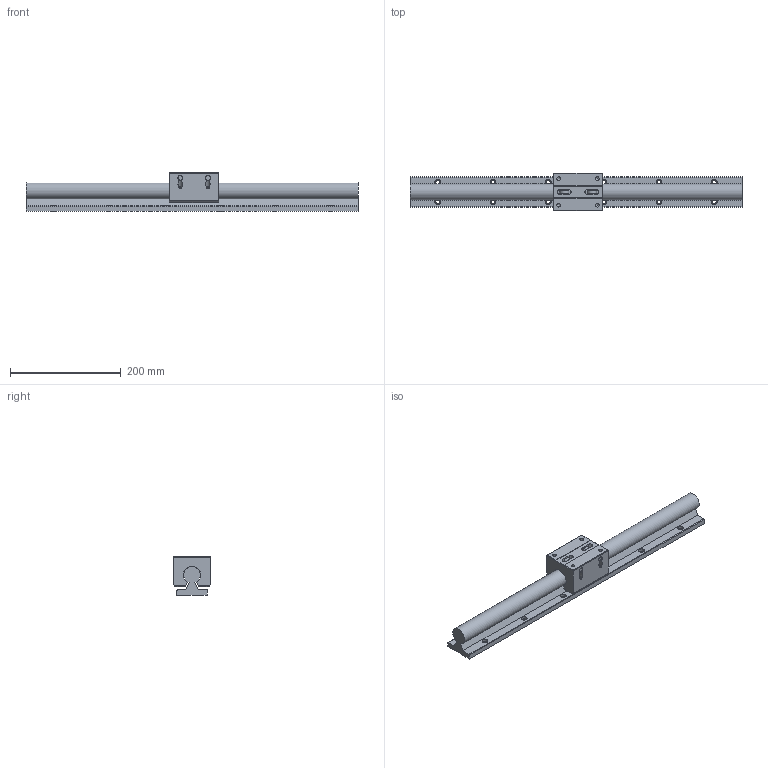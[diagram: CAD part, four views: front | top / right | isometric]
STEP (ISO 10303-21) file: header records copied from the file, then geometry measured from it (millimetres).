
FILE_DESCRIPTION((''),'2;1');
FILE_NAME('D:\製品 (図面)\カタログ用3D\リニアガイド関連\STEP形式\SLGB\SLGB30.stp','2010-06-02T16:56:51',('Tsuchiya'),(''),'Autodesk Inventor 10','Autodesk Inventor 10','');
FILE_SCHEMA(('AUTOMOTIVE_DESIGN { 1 0 10303 214 1 1 1 1 }'));
Length unit declared in the file: millimetre
Products named in the file (3): SLGB30; SLGB301; SLGB302
Assembly tree (2 placements, depth 2):
  SLGB30
    SLGB301
    SLGB302
Bounding box: 600 x 68 x 70 mm (x, y, z)
Volume: 1087350 mm3; surface area: 181415.8 mm2
Topology: 2 solids, 2 shells, 237 faces, 549 edges, 356 vertices
Faces by surface type: bspline 108, plane 76, cylinder 30, cone 20, torus 3
Full cylindrical faces by diameter (mm): 6 x3, 6.647 x2, 7 x3, 8 x3, 9 x4, 17 x3
Entity records: 7372 total; most frequent: CARTESIAN_POINT 2728, ORIENTED_EDGE 858, DIRECTION 831, EDGE_CURVE 429, EDGE_LOOP 403, VERTEX_POINT 330, AXIS2_PLACEMENT_3D 318, FACE_OUTER_BOUND 237
